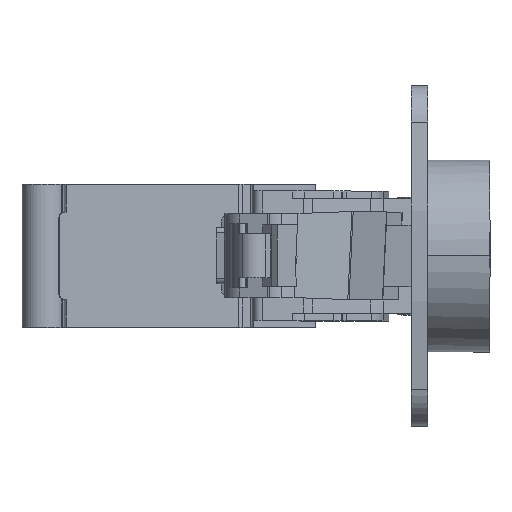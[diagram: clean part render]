
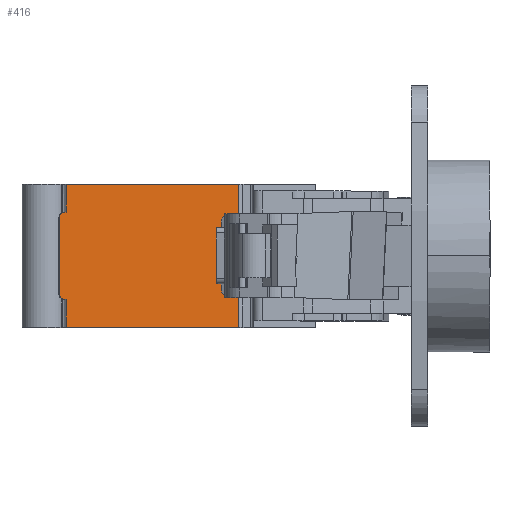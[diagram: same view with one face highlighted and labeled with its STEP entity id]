
A CAD part, top view. The second image highlights one B-rep face of the part: STEP entity #416.
In plain terms, the highlighted planar face has unit normal (0.105, 0, 0.995).
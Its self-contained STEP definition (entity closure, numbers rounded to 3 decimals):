
#83 = CARTESIAN_POINT ( 'NONE',  ( -14.93, -7.95, 52.398 ) ) ;
#151 = LINE ( 'NONE', #4019, #9090 ) ;
#282 = EDGE_CURVE ( 'NONE', #662, #1869, #8545, .T. ) ;
#416 = ADVANCED_FACE ( 'NONE', ( #4907 ), #6396, .T. ) ;
#503 = EDGE_CURVE ( 'NONE', #9667, #7603, #10713, .T. ) ;
#662 = VERTEX_POINT ( 'NONE', #7399 ) ;
#714 = EDGE_CURVE ( 'NONE', #1909, #662, #151, .T. ) ;
#777 = VECTOR ( 'NONE', #7062, 1000. ) ;
#797 = VECTOR ( 'NONE', #6997, 1000. ) ;
#1051 = LINE ( 'NONE', #6193, #777 ) ;
#1096 = VERTEX_POINT ( 'NONE', #6527 ) ;
#1115 = DIRECTION ( 'NONE',  ( 0.105, 0., 0.995 ) ) ;
#1150 = ORIENTED_EDGE ( 'NONE', *, *, #1504, .F. ) ;
#1324 = VECTOR ( 'NONE', #10365, 1000. ) ;
#1397 = CARTESIAN_POINT ( 'NONE',  ( -15.924, 6.95, 52.502 ) ) ;
#1399 = CARTESIAN_POINT ( 'NONE',  ( -14.731, 13.05, 52.377 ) ) ;
#1504 = EDGE_CURVE ( 'NONE', #7603, #1869, #6922, .T. ) ;
#1653 = VECTOR ( 'NONE', #5521, 1000. ) ;
#1674 = DIRECTION ( 'NONE',  ( -0.105, 0., -0.995 ) ) ;
#1751 = CARTESIAN_POINT ( 'NONE',  ( -14.731, 72.063, 52.377 ) ) ;
#1869 = VERTEX_POINT ( 'NONE', #5683 ) ;
#1909 = VERTEX_POINT ( 'NONE', #1399 ) ;
#1918 = CARTESIAN_POINT ( 'NONE',  ( -15.924, -6.95, 52.502 ) ) ;
#1957 = EDGE_CURVE ( 'NONE', #6223, #1096, #7730, .T. ) ;
#2010 = VECTOR ( 'NONE', #6913, 1000. ) ;
#2203 = VERTEX_POINT ( 'NONE', #10723 ) ;
#2902 = DIRECTION ( 'NONE',  ( -0.105, 0., -0.995 ) ) ;
#3716 = CARTESIAN_POINT ( 'NONE',  ( -16.969, 7.95, 52.612 ) ) ;
#3909 = ORIENTED_EDGE ( 'NONE', *, *, #7058, .T. ) ;
#4019 = CARTESIAN_POINT ( 'NONE',  ( -14.731, 72.063, 52.377 ) ) ;
#4106 = DIRECTION ( 'NONE',  ( 0., -1., 0. ) ) ;
#4286 = EDGE_CURVE ( 'NONE', #1096, #6555, #7680, .T. ) ;
#4907 = FACE_OUTER_BOUND ( 'NONE', #6226, .T. ) ;
#5213 = CARTESIAN_POINT ( 'NONE',  ( -14.731, -7.95, 52.377 ) ) ;
#5223 = CARTESIAN_POINT ( 'NONE',  ( -15.924, 6.95, 52.502 ) ) ;
#5521 = DIRECTION ( 'NONE',  ( -0.995, 0., 0.105 ) ) ;
#5683 = CARTESIAN_POINT ( 'NONE',  ( -14.93, 7.95, 52.398 ) ) ;
#5839 = DIRECTION ( 'NONE',  ( 0., 1., 0. ) ) ;
#5933 = LINE ( 'NONE', #5213, #1324 ) ;
#6193 = CARTESIAN_POINT ( 'NONE',  ( 16.689, 13.05, 49.072 ) ) ;
#6223 = VERTEX_POINT ( 'NONE', #9724 ) ;
#6226 = EDGE_LOOP ( 'NONE', ( #8252, #10801, #6748, #10825, #9283, #7051, #1150, #10084, #6700, #3909 ) ) ;
#6396 = PLANE ( 'NONE',  #7897 ) ;
#6527 = CARTESIAN_POINT ( 'NONE',  ( 16.689, -13.05, 49.072 ) ) ;
#6555 = VERTEX_POINT ( 'NONE', #6923 ) ;
#6700 = ORIENTED_EDGE ( 'NONE', *, *, #7180, .F. ) ;
#6748 = ORIENTED_EDGE ( 'NONE', *, *, #1957, .F. ) ;
#6824 = CARTESIAN_POINT ( 'NONE',  ( -14.93, -6.95, 52.398 ) ) ;
#6913 = DIRECTION ( 'NONE',  ( 0., -1., 0. ) ) ;
#6922 = CIRCLE ( 'NONE', #11105, 1. ) ;
#6923 = CARTESIAN_POINT ( 'NONE',  ( -14.731, -13.05, 52.377 ) ) ;
#6997 = DIRECTION ( 'NONE',  ( -0.995, 0., 0.105 ) ) ;
#7051 = ORIENTED_EDGE ( 'NONE', *, *, #282, .T. ) ;
#7058 = EDGE_CURVE ( 'NONE', #8328, #2203, #5933, .T. ) ;
#7062 = DIRECTION ( 'NONE',  ( 0.995, 0., -0.105 ) ) ;
#7180 = EDGE_CURVE ( 'NONE', #8328, #9667, #11211, .T. ) ;
#7226 = EDGE_CURVE ( 'NONE', #2203, #6555, #10655, .T. ) ;
#7350 = CARTESIAN_POINT ( 'NONE',  ( 16.689, 72.063, 49.072 ) ) ;
#7399 = CARTESIAN_POINT ( 'NONE',  ( -14.731, 7.95, 52.377 ) ) ;
#7603 = VERTEX_POINT ( 'NONE', #1397 ) ;
#7680 = LINE ( 'NONE', #7885, #797 ) ;
#7712 = DIRECTION ( 'NONE',  ( 0.995, 0., -0.105 ) ) ;
#7730 = LINE ( 'NONE', #7350, #9506 ) ;
#7885 = CARTESIAN_POINT ( 'NONE',  ( 16.689, -13.05, 49.072 ) ) ;
#7897 = AXIS2_PLACEMENT_3D ( 'NONE', #9870, #1115, #8979 ) ;
#8058 = CARTESIAN_POINT ( 'NONE',  ( -14.93, 6.95, 52.398 ) ) ;
#8188 = DIRECTION ( 'NONE',  ( 0., -1., 0. ) ) ;
#8252 = ORIENTED_EDGE ( 'NONE', *, *, #7226, .T. ) ;
#8328 = VERTEX_POINT ( 'NONE', #83 ) ;
#8395 = VECTOR ( 'NONE', #5839, 1000. ) ;
#8545 = LINE ( 'NONE', #3716, #1653 ) ;
#8923 = DIRECTION ( 'NONE',  ( 0.995, 0., -0.105 ) ) ;
#8979 = DIRECTION ( 'NONE',  ( 0., -1., 0. ) ) ;
#9090 = VECTOR ( 'NONE', #4106, 1000. ) ;
#9283 = ORIENTED_EDGE ( 'NONE', *, *, #714, .T. ) ;
#9506 = VECTOR ( 'NONE', #8188, 1000. ) ;
#9667 = VERTEX_POINT ( 'NONE', #1918 ) ;
#9724 = CARTESIAN_POINT ( 'NONE',  ( 16.689, 13.05, 49.072 ) ) ;
#9834 = AXIS2_PLACEMENT_3D ( 'NONE', #6824, #1674, #7712 ) ;
#9870 = CARTESIAN_POINT ( 'NONE',  ( 16.689, 72.063, 49.072 ) ) ;
#10084 = ORIENTED_EDGE ( 'NONE', *, *, #503, .F. ) ;
#10215 = EDGE_CURVE ( 'NONE', #1909, #6223, #1051, .T. ) ;
#10365 = DIRECTION ( 'NONE',  ( 0.995, 0., -0.105 ) ) ;
#10655 = LINE ( 'NONE', #1751, #2010 ) ;
#10713 = LINE ( 'NONE', #5223, #8395 ) ;
#10723 = CARTESIAN_POINT ( 'NONE',  ( -14.731, -7.95, 52.377 ) ) ;
#10801 = ORIENTED_EDGE ( 'NONE', *, *, #4286, .F. ) ;
#10825 = ORIENTED_EDGE ( 'NONE', *, *, #10215, .F. ) ;
#11105 = AXIS2_PLACEMENT_3D ( 'NONE', #8058, #2902, #8923 ) ;
#11211 = CIRCLE ( 'NONE', #9834, 1. ) ;
